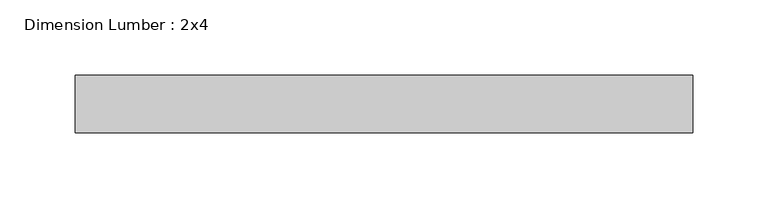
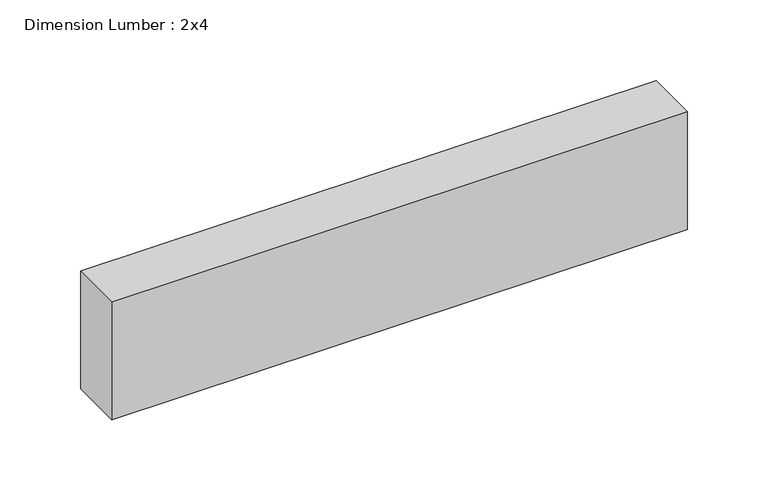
"""IFC4 building model written with IfcOpenShell, lengths in millimetres: beam geometry, Dimension Lumber : 2x4."""

from ifc_helpers import new_model, si_unit, frame, origin, place, context, project, spatial, polyline, outline, extrude, source, transform, mapped, element, save


def dimension_lumber_2x4_24b72c41(model_context):
    return source(origin(), model_context, "Body", "SweptSolid", [
        extrude(outline(polyline([(205.0520833, 19.05), (205.0520833, -19.05), (-205.0520833, -19.05), (-205.0520833, 19.05), (205.0520833, 19.05)])), frame((0.0, 0.0, -44.45), z_axis=(0.0, 0.0, 1.0), x_axis=(1.0, 0.0, 0.0)), (0.0, 0.0, 1.0), 88.9),
    ])


if __name__ == "__main__":
    model = new_model("IFC4")
    model_context = context("Model", 3, world=origin())
    ifc_project = project(units=[si_unit("LENGTHUNIT", "METRE", prefix="MILLI")], contexts=[model_context])
    site = spatial("IfcSite", under=ifc_project)
    building = spatial("IfcBuilding", under=site)
    placement = place(None, origin())
    dimension_lumber_2x4_shape = dimension_lumber_2x4_24b72c41(model_context)
    element("IfcBeam", 1, ObjectType="Dimension Lumber : 2x4", at=placement, inside=building, context=model_context, shape_type="MappedRepresentation", body=[
        mapped(dimension_lumber_2x4_shape, transform((0.0, 0.0, 0.0), x_axis=(1.0, 0.0, 0.0), y_axis=(0.0, 1.0, 0.0), z_axis=(0.0, 0.0, 1.0))),
    ])
    save(model, "model.ifc")
